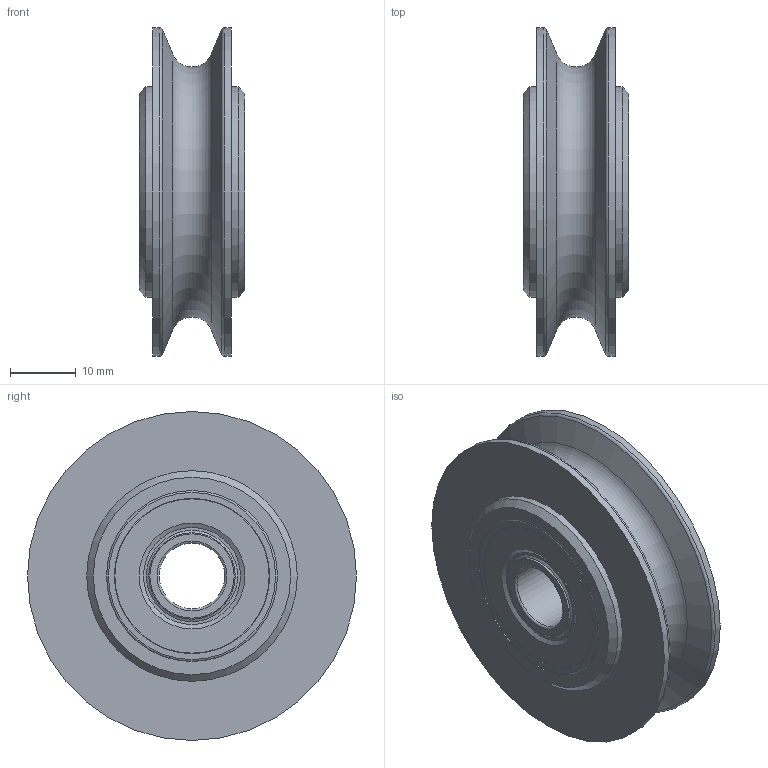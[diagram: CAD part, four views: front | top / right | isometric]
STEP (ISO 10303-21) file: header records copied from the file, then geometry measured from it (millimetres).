
FILE_DESCRIPTION(/* description */ ('Seilrolle ø50 VA Kugellager komplett'),/* implementation_level */ '2;1');
FILE_NAME(/* name */ 'Z:\Workspace\03 Seilrollen\1.502 Seilrollen VA Kugellager\1.502.01 Seilrolle ø50 VA Kugellager\1.502.01 Seilrolle ø50 VA Kugellager komplett.stp',/* time_stamp */ '2021-10-26T11:05:41+02:00',/* author */ ('cad-user'),/* organization */ (''),/* preprocessor_version */ 'ST-DEVELOPER v18',/* originating_system */ 'Autodesk Inventor 2020',/* authorisation */ '');
FILE_SCHEMA (('AUTOMOTIVE_DESIGN { 1 0 10303 214 3 1 1 }'));
Length unit declared in the file: millimetre
Products named in the file (8): 1.502.01 Seilrolle ø50 VA Kugellager komplett; 1.502.01 Seilrolle ø50 VA Kugellager; S60002RS; snr_s60002rs_1_05; snr_s60002rs_1_04; snr_s60002rs_1_03; snr_s60002rs_1_02; snr_s60002rs_1_01
Assembly tree (8 placements, depth 3):
  1.502.01 Seilrolle ø50 VA Kugellager komplett
    1.502.01 Seilrolle ø50 VA Kugellager
    S60002RS  x2
      snr_s60002rs_1_05
      snr_s60002rs_1_04
      snr_s60002rs_1_03
      snr_s60002rs_1_02
      snr_s60002rs_1_01
Bounding box: 16 x 50 x 50 mm (x, y, z)
Volume: 17715.1 mm3; surface area: 15751.9 mm2
Topology: 11 solids, 11 shells, 132 faces, 400 edges, 304 vertices
Faces by surface type: plane 36, cone 32, cylinder 29, torus 27, sphere 8
Full cylindrical faces by diameter (mm): 10 x2, 12.8 x4, 13.138 x4, 16.571 x4, 19.429 x4, 23.446 x4, 26 x3, 32 x2, 50 x2
Entity records: 3269 total; most frequent: CARTESIAN_POINT 748, DIRECTION 545, ORIENTED_EDGE 432, AXIS2_PLACEMENT_3D 255, EDGE_CURVE 216, VERTEX_POINT 170, CIRCLE 165, EDGE_LOOP 102
